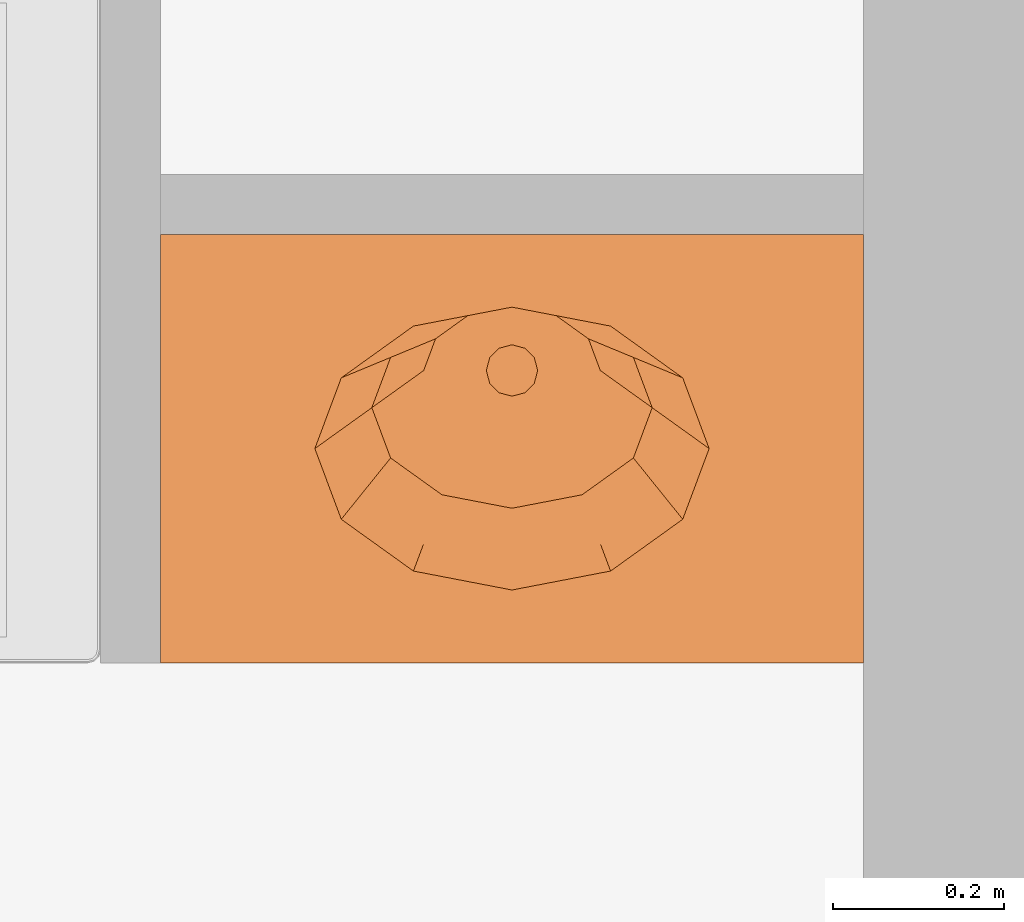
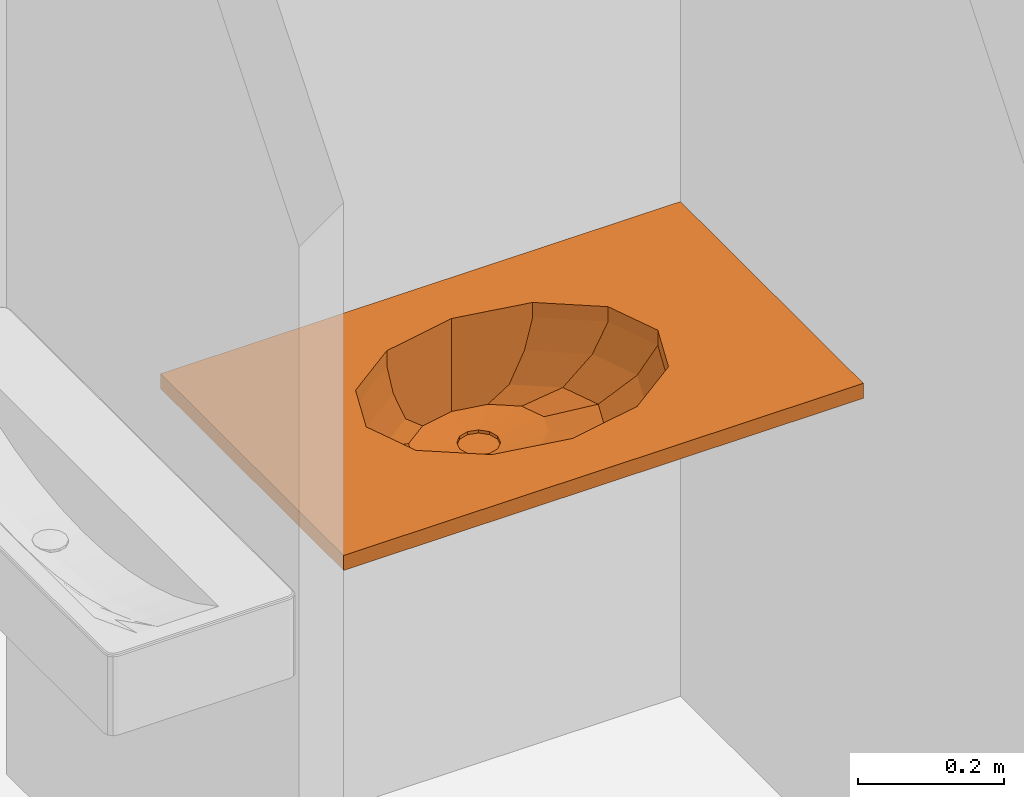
# One storey, part 62 of 64: 1 proxy.
"""IFC2X3 building model written with IfcOpenShell, lengths in metres."""

from ifc_helpers import new_model, entity, si_unit, converted_unit, derived_unit, direction, frame, origin, place, context, subcontext, project, spatial, face_set, surface_model, source, transform, mapped, material, type_object, type_shapes, element, save


model = new_model("IFC2X3")

# Units and contexts
model_context = context("Model", 3, precision=1e-05, world=origin(), true_north=direction((6.123031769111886e-17, 1.0)))
body_context = subcontext(model_context, "Body", "Model", "MODEL_VIEW")
ifc_project = project(units=[si_unit("LENGTHUNIT", "METRE"), si_unit("AREAUNIT", "SQUARE_METRE"), si_unit("VOLUMEUNIT", "CUBIC_METRE"), converted_unit("PLANEANGLEUNIT", "DEGREE", entity("IfcRatioMeasure", 0.017453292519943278), si_unit("PLANEANGLEUNIT", "RADIAN"), dimensions=[0, 0, 0, 0, 0, 0, 0]), si_unit("MASSUNIT", "GRAM", prefix="KILO"), derived_unit("MASSDENSITYUNIT", [(si_unit("MASSUNIT", "GRAM", prefix="KILO"), 1), (si_unit("LENGTHUNIT", "METRE"), -3)]), derived_unit("MOMENTOFINERTIAUNIT", [(si_unit("LENGTHUNIT", "METRE"), 4)]), si_unit("TIMEUNIT", "SECOND"), si_unit("FREQUENCYUNIT", "HERTZ"), si_unit("THERMODYNAMICTEMPERATUREUNIT", "DEGREE_CELSIUS"), derived_unit("THERMALTRANSMITTANCEUNIT", [(si_unit("MASSUNIT", "GRAM", prefix="KILO"), 1), (si_unit("THERMODYNAMICTEMPERATUREUNIT", "KELVIN"), -1), (si_unit("TIMEUNIT", "SECOND"), -3)]), derived_unit("THERMALCONDUCTANCEUNIT", [(si_unit("MASSUNIT", "GRAM", prefix="KILO"), 1), (si_unit("LENGTHUNIT", "METRE"), 1), (si_unit("THERMODYNAMICTEMPERATUREUNIT", "KELVIN"), -1), (si_unit("TIMEUNIT", "SECOND"), -3)]), derived_unit("VOLUMETRICFLOWRATEUNIT", [(si_unit("LENGTHUNIT", "METRE"), 3), (si_unit("TIMEUNIT", "SECOND"), -1)]), derived_unit("MASSFLOWRATEUNIT", [(si_unit("MASSUNIT", "GRAM", prefix="KILO"), 1), (si_unit("TIMEUNIT", "SECOND"), -1)]), derived_unit("ROTATIONALFREQUENCYUNIT", [(si_unit("TIMEUNIT", "SECOND"), -1)]), si_unit("ELECTRICCURRENTUNIT", "AMPERE"), si_unit("ELECTRICVOLTAGEUNIT", "VOLT"), si_unit("POWERUNIT", "WATT"), si_unit("FORCEUNIT", "NEWTON", prefix="KILO"), si_unit("ILLUMINANCEUNIT", "LUX"), si_unit("LUMINOUSFLUXUNIT", "LUMEN"), si_unit("LUMINOUSINTENSITYUNIT", "CANDELA"), derived_unit("USERDEFINED", [(si_unit("MASSUNIT", "GRAM", prefix="KILO"), -1), (si_unit("LENGTHUNIT", "METRE"), -2), (si_unit("TIMEUNIT", "SECOND"), 3), (si_unit("LUMINOUSFLUXUNIT", "LUMEN"), 1)]), derived_unit("USERDEFINED", [(si_unit("MASSUNIT", "GRAM", prefix="KILO"), 1), (si_unit("LENGTHUNIT", "METRE"), 3), (si_unit("TIMEUNIT", "SECOND"), -3), (si_unit("ELECTRICCURRENTUNIT", "AMPERE"), -2)]), derived_unit("USERDEFINED", [(si_unit("LENGTHUNIT", "METRE"), 2), (si_unit("TIMEUNIT", "SECOND"), -2)]), derived_unit("SOUNDPOWERUNIT", [(si_unit("MASSUNIT", "GRAM", prefix="KILO"), 1), (si_unit("LENGTHUNIT", "METRE"), 2), (si_unit("TIMEUNIT", "SECOND"), -3)]), derived_unit("SOUNDPRESSUREUNIT", [(si_unit("MASSUNIT", "GRAM", prefix="KILO"), 1), (si_unit("LENGTHUNIT", "METRE"), -1), (si_unit("TIMEUNIT", "SECOND"), -2)]), derived_unit("LINEARVELOCITYUNIT", [(si_unit("LENGTHUNIT", "METRE"), 1), (si_unit("TIMEUNIT", "SECOND"), -1)]), si_unit("PRESSUREUNIT", "PASCAL"), derived_unit("USERDEFINED", [(si_unit("LENGTHUNIT", "METRE"), -2), (si_unit("MASSUNIT", "GRAM", prefix="KILO"), 1), (si_unit("TIMEUNIT", "SECOND"), -2)]), derived_unit("LINEARFORCEUNIT", [(si_unit("MASSUNIT", "GRAM", prefix="KILO"), 1), (si_unit("LENGTHUNIT", "METRE"), 1), (si_unit("TIMEUNIT", "SECOND"), -2), (si_unit("LENGTHUNIT", "METRE"), -1)]), derived_unit("PLANARFORCEUNIT", [(si_unit("MASSUNIT", "GRAM", prefix="KILO"), 1), (si_unit("LENGTHUNIT", "METRE"), 1), (si_unit("TIMEUNIT", "SECOND"), -2), (si_unit("LENGTHUNIT", "METRE"), -2)]), derived_unit("SPECIFICHEATCAPACITYUNIT", [(si_unit("LENGTHUNIT", "METRE"), 2), (si_unit("TIMEUNIT", "SECOND"), -2), (si_unit("THERMODYNAMICTEMPERATUREUNIT", "KELVIN"), -1)]), derived_unit("VAPORPERMEABILITYUNIT", [(si_unit("TIMEUNIT", "SECOND"), 1), (si_unit("LENGTHUNIT", "METRE"), -1)]), derived_unit("DYNAMICVISCOSITYUNIT", [(si_unit("MASSUNIT", "GRAM", prefix="KILO"), 1), (si_unit("LENGTHUNIT", "METRE"), -1), (si_unit("TIMEUNIT", "SECOND"), -1)]), derived_unit("THERMALEXPANSIONCOEFFICIENTUNIT", [(si_unit("THERMODYNAMICTEMPERATUREUNIT", "KELVIN"), -1)])], contexts=[model_context])

# Site, building, storey
site_placement = place(None, origin())
site = spatial("IfcSite", under=ifc_project, at=site_placement, Name="Default", CompositionType="ELEMENT")
building_placement = place(site_placement, origin())
building = spatial("IfcBuilding", under=site, at=building_placement, CompositionType="ELEMENT")
storey_placement = place(building_placement, origin())
storey = spatial("IfcBuildingStorey", under=building, at=storey_placement, Name="REZ-DE-CHAUSSÉE", CompositionType="ELEMENT", Elevation=0.0)

# Proxy
ifc_material = material(Name="Marbre - Blanc beige")
building_element_proxy_type = type_object("IfcBuildingElementProxyType", Name="Symb-0001", PredefinedType="NOTDEFINED", material=ifc_material)
shared_shape = source(origin(), body_context, "Body", "SurfaceModel", [
    surface_model("IfcFaceBasedSurfaceModel", [(0.0, 0.49999999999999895, 0.1420000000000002), (0.8199999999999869, 0.49999999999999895, 0.1420000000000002), (0.8199999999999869, 0.0, 0.1420000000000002), (0.0, 0.0, 0.1420000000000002), (0.5249999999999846, 0.10710580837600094, 0.1420000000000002), (0.609185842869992, 0.1675000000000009, 0.1420000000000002), (0.6399999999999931, 0.24999999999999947, 0.1420000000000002), (0.609185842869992, 0.33250000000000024, 0.1420000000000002), (0.5249999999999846, 0.392894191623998, 0.1420000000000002), (0.4099999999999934, 0.4149999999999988, 0.1420000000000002), (0.29500000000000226, 0.392894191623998, 0.1420000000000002), (0.21081415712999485, 0.33250000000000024, 0.1420000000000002), (0.17999999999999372, 0.24999999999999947, 0.1420000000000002), (0.21081415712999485, 0.1675000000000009, 0.1420000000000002), (0.29500000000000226, 0.10710580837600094, 0.1420000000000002), (0.4099999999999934, 0.08500000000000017, 0.1420000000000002), (0.0, 0.49999999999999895, 0.1670000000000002), (0.8199999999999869, 0.49999999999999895, 0.1670000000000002), (0.8199999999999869, 0.0, 0.1670000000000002), (0.0, 0.0, 0.1670000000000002), (0.5249999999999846, 0.10710580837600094, 0.1670000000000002), (0.609185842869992, 0.1675000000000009, 0.1670000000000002), (0.6399999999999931, 0.25000000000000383, 0.1670000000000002), (0.609185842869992, 0.3324999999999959, 0.1670000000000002), (0.5249999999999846, 0.392894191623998, 0.1670000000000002), (0.4099999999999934, 0.4149999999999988, 0.1670000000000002), (0.29500000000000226, 0.392894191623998, 0.1670000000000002), (0.21081415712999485, 0.33250000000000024, 0.1670000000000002), (0.17999999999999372, 0.24999999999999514, 0.1670000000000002), (0.21081415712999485, 0.16750000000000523, 0.1670000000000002), (0.29500000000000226, 0.10710580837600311, 0.1670000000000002), (0.4099999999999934, 0.08500000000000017, 0.1670000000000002), (0.4099999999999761, 0.4149999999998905, 0.09000000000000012), (0.5134999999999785, 0.39510477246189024, 0.09000000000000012), (0.3064999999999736, 0.39510477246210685, 0.09000000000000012), (0.5892672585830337, 0.340750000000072, 0.08999999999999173), (0.23073274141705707, 0.34074999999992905, 0.0900000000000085), (0.616999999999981, 0.26649999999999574, 0.09000000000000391), (0.20300000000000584, 0.2665000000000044, 0.0899999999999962), (0.5892672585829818, 0.1922500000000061, 0.09000000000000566), (0.2307327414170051, 0.19224999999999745, 0.08999999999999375), (0.5134999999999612, 0.13789522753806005, 0.0900000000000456), (0.3064999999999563, 0.13789522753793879, 0.08999999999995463), (0.41000000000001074, 0.1179999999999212, 0.0899999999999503), (0.4099999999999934, 0.4149999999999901, 0.03800000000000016), (0.4917650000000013, 0.3992827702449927, 0.03800000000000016), (0.32823499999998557, 0.39928277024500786, 0.03800000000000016), (0.5516211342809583, 0.35634249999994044, 0.038000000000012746), (0.2683788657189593, 0.3563425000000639, 0.03799999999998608), (0.5735300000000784, 0.2976850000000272, 0.037999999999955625), (0.2464700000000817, 0.29768499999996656, 0.03800000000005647), (0.551621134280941, 0.23902750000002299, 0.03800000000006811), (0.268378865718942, 0.23902749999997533, 0.037999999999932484), (0.4917650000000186, 0.1960872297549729, 0.03799999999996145), (0.32823500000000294, 0.1960872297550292, 0.03800000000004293), (0.4099999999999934, 0.18036999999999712, 0.03799999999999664), (0.4099999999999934, 0.4150000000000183, 0.012000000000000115), (0.4615119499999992, 0.40509814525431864, 0.012000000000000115), (0.3584880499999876, 0.4050981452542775, 0.012000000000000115), (0.4992213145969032, 0.37804577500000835, 0.011999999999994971), (0.3207786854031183, 0.3780457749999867, 0.012000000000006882), (0.5130238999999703, 0.3410915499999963, 0.012000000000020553), (0.3069760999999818, 0.34109155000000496, 0.011999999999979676), (0.4992213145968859, 0.30413732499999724, 0.011999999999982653), (0.320778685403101, 0.30413732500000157, 0.012000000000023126), (0.4615119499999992, 0.2770849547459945, 0.011999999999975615), (0.3584880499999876, 0.2770849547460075, 0.012000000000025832), (0.4099999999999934, 0.26718310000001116, 0.012000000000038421), (0.42499999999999, 0.3670723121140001, 0.005000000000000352), (0.4099999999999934, 0.37109154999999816, 0.0050000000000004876), (0.43598076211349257, 0.3560915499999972, 0.0050000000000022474), (0.39499999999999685, 0.3670723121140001, 0.005000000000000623), (0.4399999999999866, 0.34109155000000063, 0.005000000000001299), (0.3840192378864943, 0.3560915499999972, 0.005000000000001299), (0.43598076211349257, 0.32609154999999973, 0.005000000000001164), (0.3799999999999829, 0.34109155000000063, 0.004999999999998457), (0.42499999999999, 0.315110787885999, 0.005000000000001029), (0.3840192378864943, 0.32609154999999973, 0.005000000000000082), (0.4099999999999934, 0.31109155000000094, 0.005000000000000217), (0.39499999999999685, 0.315110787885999, 0.004999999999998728), (0.4399999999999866, 0.34109155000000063, 0.0), (0.43598076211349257, 0.3560915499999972, 0.0), (0.43598076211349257, 0.32609154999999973, 0.0), (0.42499999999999, 0.315110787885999, 0.0), (0.4099999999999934, 0.31109155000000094, 0.0), (0.39499999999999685, 0.315110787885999, 0.0), (0.3840192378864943, 0.32609154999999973, 0.0), (0.3799999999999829, 0.34109155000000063, 0.0), (0.3840192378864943, 0.3560915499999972, 0.0), (0.39499999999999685, 0.3670723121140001, 0.0), (0.4099999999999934, 0.37109154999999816, 0.0), (0.42499999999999, 0.3670723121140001, 0.0)], [face_set([[[0, 1, 2, 3], [4, 5, 6, 7, 8, 9, 10, 11, 12, 13, 14, 15]], [[0, 16, 17, 1]], [[1, 17, 18, 2]], [[2, 18, 19, 3]], [[3, 19, 16, 0]], [[20, 21, 5, 4]], [[21, 22, 6, 5]], [[22, 23, 7, 6]], [[23, 24, 8, 7]], [[24, 25, 9, 8]], [[25, 26, 10, 9]], [[26, 27, 11, 10]], [[27, 28, 12, 11]], [[28, 29, 13, 12]], [[29, 30, 14, 13]], [[30, 31, 15, 14]], [[31, 20, 4, 15]], [[18, 17, 16, 19], [24, 23, 22, 21, 20, 31, 30, 29, 28, 27, 26, 25]], [[9, 32, 33, 8]], [[10, 34, 32, 9]], [[8, 33, 35, 7]], [[11, 36, 34, 10]], [[7, 35, 37, 6]], [[12, 38, 36, 11]], [[6, 37, 39, 5]], [[13, 40, 38, 12]], [[5, 39, 41, 4]], [[14, 42, 40, 13]], [[4, 41, 43, 15]], [[15, 43, 42, 14]], [[32, 44, 45, 33]], [[34, 46, 44, 32]], [[33, 45, 47, 35]], [[36, 48, 46, 34]], [[35, 47, 49, 37]], [[38, 50, 48, 36]], [[37, 49, 51, 39]], [[40, 52, 50, 38]], [[39, 51, 53, 41]], [[42, 54, 52, 40]], [[41, 53, 55, 43]], [[43, 55, 54, 42]], [[44, 56, 57, 45]], [[46, 58, 56, 44]], [[45, 57, 59, 47]], [[48, 60, 58, 46]], [[47, 59, 61, 49]], [[50, 62, 60, 48]], [[49, 61, 63, 51]], [[52, 64, 62, 50]], [[51, 63, 65, 53]], [[54, 66, 64, 52]], [[53, 65, 67, 55]], [[55, 67, 66, 54]], [[56, 68, 57]], [[56, 69, 68]], [[57, 68, 70]], [[58, 69, 56]], [[57, 70, 59]], [[58, 71, 69]], [[59, 70, 72]], [[60, 71, 58]], [[59, 72, 61]], [[60, 73, 71]], [[61, 72, 74]], [[62, 73, 60]], [[61, 74, 63]], [[62, 75, 73]], [[63, 74, 76]], [[64, 75, 62]], [[63, 76, 65]], [[64, 77, 75]], [[65, 76, 78]], [[66, 77, 64]], [[65, 78, 67]], [[66, 79, 77]], [[67, 78, 79]], [[67, 79, 66]], [[72, 80, 81, 70]], [[74, 82, 80, 72]], [[80, 82, 83, 84, 85, 86, 87, 88, 89, 90, 91, 81]], [[70, 81, 91, 68]], [[76, 83, 82, 74]], [[78, 84, 83, 76]], [[79, 85, 84, 78]], [[77, 86, 85, 79]], [[75, 87, 86, 77]], [[73, 88, 87, 75]], [[71, 89, 88, 73]], [[69, 90, 89, 71]], [[68, 91, 90, 69]]])]),
])
type_shapes(building_element_proxy_type, [shared_shape])
proxy_placement = place(storey_placement, frame((109.13075228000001, 16.8872094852, 0.6579999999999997)))
element("IfcBuildingElementProxy", 1, at=proxy_placement, inside=storey, type_object=building_element_proxy_type, material=ifc_material, Name="Symb-0001 47900:Symb-0001 47900", ObjectType="Symb-0001 47900:Symb-0001 47900", context=body_context, shape_type="MappedRepresentation", body=[
    mapped(shared_shape, transform((0.0, 0.0, 0.0), scale=1.0)),
])

save(model, "model.ifc")
